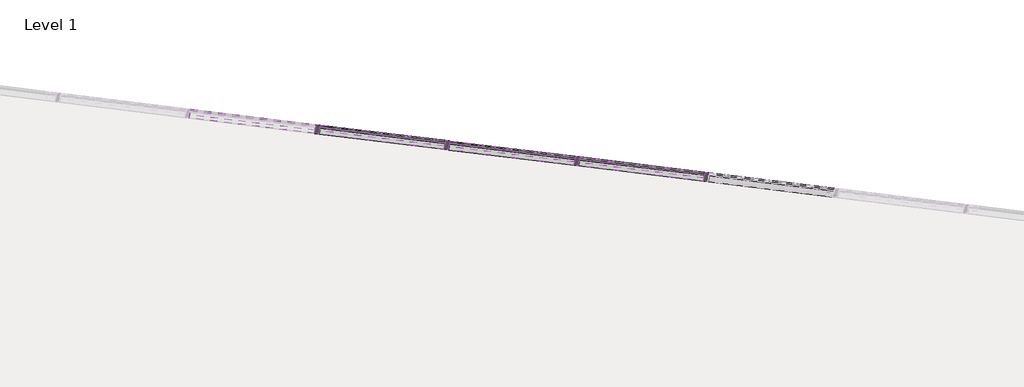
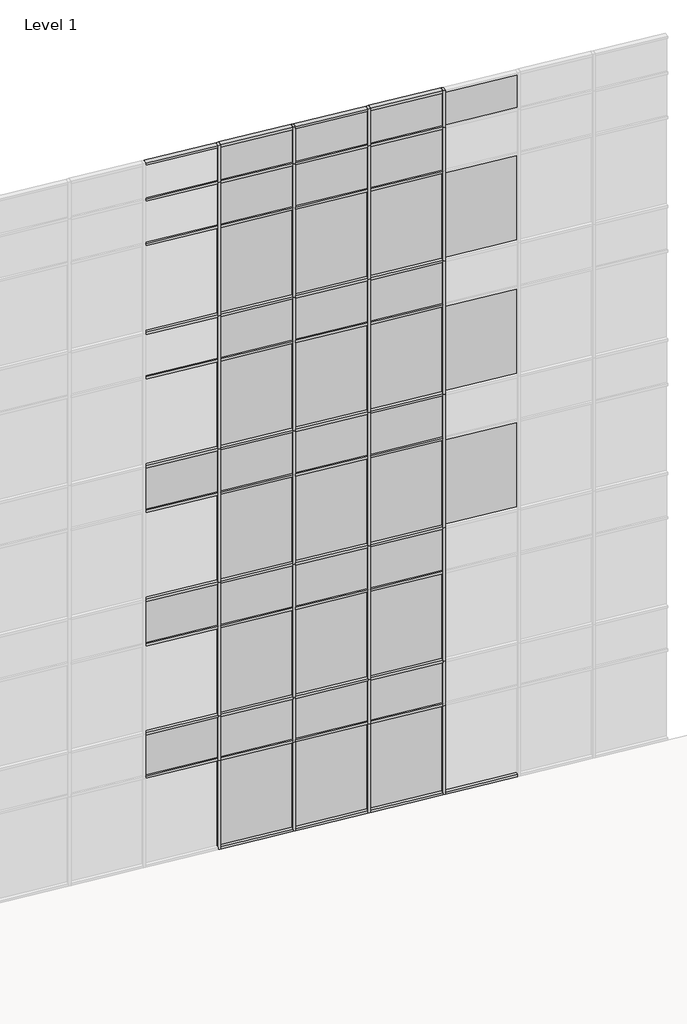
# One storey, part 17 of 23: 76 members, 40 plates.
"""IFC4 building model written with IfcOpenShell, lengths in millimetres."""

from ifc_helpers import new_model, si_unit, origin, place, context, project, spatial, transform, mapped, element, save
from components import member_2b49869a, member_f92b8aa2, member_810865a4, member_f0fea5a5, member_6d5c3e5e, member_9764dd38, system_panel_glazed_14c75400, system_panel_solid_5dfe6f83, system_panel_solid_e25e2004, system_panel_solid_b7551183

model = new_model("IFC4")

# Units and contexts
model_context = context("Model", 3, world=origin())
ifc_project = project(units=[si_unit("LENGTHUNIT", "METRE", prefix="MILLI")], contexts=[model_context])

# Site, building, storey
site = spatial("IfcSite", under=ifc_project)
building = spatial("IfcBuilding", under=site)
storey = spatial("IfcBuildingStorey", under=building, Name="Level 1", Elevation=0.0)

# Members
placement = place(None, origin())
member_shape = member_2b49869a(model_context)
element("IfcMember", 1, ObjectType="Rectangular Mullion : 2.5\" x 5\" rectangular", at=placement, inside=storey, context=model_context, shape_type="MappedRepresentation", body=[
    mapped(member_shape, transform((-20221.8467741, 14354.2917535, 2438.4), x_axis=(0.9925461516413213, -0.12186934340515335, 0.0), y_axis=(-0.12186934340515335, -0.9925461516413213, 0.0), z_axis=(0.0, 0.0, -1.0))),
])
element("IfcMember", 2, ObjectType="Rectangular Mullion : 2.5\" x 5\" rectangular", at=placement, inside=storey, context=model_context, shape_type="MappedRepresentation", body=[
    mapped(member_shape, transform((-14776.3415677, 13685.6677878, 2438.4), x_axis=(0.9925461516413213, -0.12186934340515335, 0.0), y_axis=(-0.12186934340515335, -0.9925461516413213, 0.0), z_axis=(0.0, 0.0, -1.0))),
])
element("IfcMember", 3, ObjectType="Rectangular Mullion : 2.5\" x 5\" rectangular", at=placement, inside=storey, context=model_context, shape_type="MappedRepresentation", body=[
    mapped(member_shape, transform((-16591.5099698, 13908.5424431, 2438.4), x_axis=(0.9925461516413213, -0.12186934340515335, 0.0), y_axis=(-0.12186934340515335, -0.9925461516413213, 0.0), z_axis=(0.0, 0.0, -1.0))),
])
element("IfcMember", 4, ObjectType="Rectangular Mullion : 2.5\" x 5\" rectangular", at=placement, inside=storey, context=model_context, shape_type="MappedRepresentation", body=[
    mapped(member_shape, transform((-18406.678372, 14131.4170983, 2438.4), x_axis=(0.9925461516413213, -0.12186934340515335, 0.0), y_axis=(-0.12186934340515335, -0.9925461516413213, 0.0), z_axis=(0.0, 0.0, -1.0))),
])
member_2_shape = member_f92b8aa2(model_context)
element("IfcMember", 5, ObjectType="Rectangular Mullion : 2.5\" x 5\" rectangular", at=placement, inside=storey, context=model_context, shape_type="MappedRepresentation", body=[
    mapped(member_2_shape, transform((-20221.8467741, 14354.2917535, 18288.0), x_axis=(0.9925461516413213, -0.12186934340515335, 0.0), y_axis=(-0.12186934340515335, -0.9925461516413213, 0.0), z_axis=(0.0, 0.0, -1.0))),
])
element("IfcMember", 6, ObjectType="Rectangular Mullion : 2.5\" x 5\" rectangular", at=placement, inside=storey, context=model_context, shape_type="MappedRepresentation", body=[
    mapped(member_2_shape, transform((-14776.3415677, 13685.6677878, 18288.0), x_axis=(0.9925461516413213, -0.12186934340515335, 0.0), y_axis=(-0.12186934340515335, -0.9925461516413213, 0.0), z_axis=(0.0, 0.0, -1.0))),
])
element("IfcMember", 7, ObjectType="Rectangular Mullion : 2.5\" x 5\" rectangular", at=placement, inside=storey, context=model_context, shape_type="MappedRepresentation", body=[
    mapped(member_2_shape, transform((-16591.5099698, 13908.5424431, 18288.0), x_axis=(0.9925461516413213, -0.12186934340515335, 0.0), y_axis=(-0.12186934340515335, -0.9925461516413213, 0.0), z_axis=(0.0, 0.0, -1.0))),
])
element("IfcMember", 8, ObjectType="Rectangular Mullion : 2.5\" x 5\" rectangular", at=placement, inside=storey, context=model_context, shape_type="MappedRepresentation", body=[
    mapped(member_2_shape, transform((-18406.678372, 14131.4170983, 18288.0), x_axis=(0.9925461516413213, -0.12186934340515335, 0.0), y_axis=(-0.12186934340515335, -0.9925461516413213, 0.0), z_axis=(0.0, 0.0, -1.0))),
])
member_3_shape = member_810865a4(model_context)
element("IfcMember", 9, ObjectType="Rectangular Mullion : 2.5\" x 5\" rectangular", at=placement, inside=storey, context=model_context, shape_type="MappedRepresentation", body=[
    mapped(member_3_shape, transform((-20221.8467741, 14354.2917535, 14630.4), x_axis=(0.9925461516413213, -0.12186934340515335, 0.0), y_axis=(-0.12186934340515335, -0.9925461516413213, 0.0), z_axis=(0.0, 0.0, -1.0))),
])
element("IfcMember", 10, ObjectType="Rectangular Mullion : 2.5\" x 5\" rectangular", at=placement, inside=storey, context=model_context, shape_type="MappedRepresentation", body=[
    mapped(member_3_shape, transform((-20221.8467741, 14354.2917535, 10972.8), x_axis=(0.9925461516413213, -0.12186934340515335, 0.0), y_axis=(-0.12186934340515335, -0.9925461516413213, 0.0), z_axis=(0.0, 0.0, -1.0))),
])
element("IfcMember", 11, ObjectType="Rectangular Mullion : 2.5\" x 5\" rectangular", at=placement, inside=storey, context=model_context, shape_type="MappedRepresentation", body=[
    mapped(member_3_shape, transform((-20221.8467741, 14354.2917535, 7315.2), x_axis=(0.9925461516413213, -0.12186934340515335, 0.0), y_axis=(-0.12186934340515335, -0.9925461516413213, 0.0), z_axis=(0.0, 0.0, -1.0))),
])
element("IfcMember", 12, ObjectType="Rectangular Mullion : 2.5\" x 5\" rectangular", at=placement, inside=storey, context=model_context, shape_type="MappedRepresentation", body=[
    mapped(member_3_shape, transform((-20221.8467741, 14354.2917535, 3657.6), x_axis=(0.9925461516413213, -0.12186934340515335, 0.0), y_axis=(-0.12186934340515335, -0.9925461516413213, 0.0), z_axis=(0.0, 0.0, -1.0))),
])
element("IfcMember", 13, ObjectType="Rectangular Mullion : 2.5\" x 5\" rectangular", at=placement, inside=storey, context=model_context, shape_type="MappedRepresentation", body=[
    mapped(member_3_shape, transform((-14776.3415677, 13685.6677878, 14630.4), x_axis=(0.9925461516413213, -0.12186934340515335, 0.0), y_axis=(-0.12186934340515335, -0.9925461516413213, 0.0), z_axis=(0.0, 0.0, -1.0))),
])
element("IfcMember", 14, ObjectType="Rectangular Mullion : 2.5\" x 5\" rectangular", at=placement, inside=storey, context=model_context, shape_type="MappedRepresentation", body=[
    mapped(member_3_shape, transform((-14776.3415677, 13685.6677878, 10972.8), x_axis=(0.9925461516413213, -0.12186934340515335, 0.0), y_axis=(-0.12186934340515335, -0.9925461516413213, 0.0), z_axis=(0.0, 0.0, -1.0))),
])
element("IfcMember", 15, ObjectType="Rectangular Mullion : 2.5\" x 5\" rectangular", at=placement, inside=storey, context=model_context, shape_type="MappedRepresentation", body=[
    mapped(member_3_shape, transform((-14776.3415677, 13685.6677878, 7315.2), x_axis=(0.9925461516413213, -0.12186934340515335, 0.0), y_axis=(-0.12186934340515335, -0.9925461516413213, 0.0), z_axis=(0.0, 0.0, -1.0))),
])
element("IfcMember", 16, ObjectType="Rectangular Mullion : 2.5\" x 5\" rectangular", at=placement, inside=storey, context=model_context, shape_type="MappedRepresentation", body=[
    mapped(member_3_shape, transform((-14776.3415677, 13685.6677878, 3657.6), x_axis=(0.9925461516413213, -0.12186934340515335, 0.0), y_axis=(-0.12186934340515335, -0.9925461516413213, 0.0), z_axis=(0.0, 0.0, -1.0))),
])
element("IfcMember", 17, ObjectType="Rectangular Mullion : 2.5\" x 5\" rectangular", at=placement, inside=storey, context=model_context, shape_type="MappedRepresentation", body=[
    mapped(member_3_shape, transform((-16591.5099698, 13908.5424431, 14630.4), x_axis=(0.9925461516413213, -0.12186934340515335, 0.0), y_axis=(-0.12186934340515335, -0.9925461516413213, 0.0), z_axis=(0.0, 0.0, -1.0))),
])
element("IfcMember", 18, ObjectType="Rectangular Mullion : 2.5\" x 5\" rectangular", at=placement, inside=storey, context=model_context, shape_type="MappedRepresentation", body=[
    mapped(member_3_shape, transform((-16591.5099698, 13908.5424431, 10972.8), x_axis=(0.9925461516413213, -0.12186934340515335, 0.0), y_axis=(-0.12186934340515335, -0.9925461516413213, 0.0), z_axis=(0.0, 0.0, -1.0))),
])
element("IfcMember", 19, ObjectType="Rectangular Mullion : 2.5\" x 5\" rectangular", at=placement, inside=storey, context=model_context, shape_type="MappedRepresentation", body=[
    mapped(member_3_shape, transform((-16591.5099698, 13908.5424431, 7315.2), x_axis=(0.9925461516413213, -0.12186934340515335, 0.0), y_axis=(-0.12186934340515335, -0.9925461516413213, 0.0), z_axis=(0.0, 0.0, -1.0))),
])
element("IfcMember", 20, ObjectType="Rectangular Mullion : 2.5\" x 5\" rectangular", at=placement, inside=storey, context=model_context, shape_type="MappedRepresentation", body=[
    mapped(member_3_shape, transform((-16591.5099698, 13908.5424431, 3657.6), x_axis=(0.9925461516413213, -0.12186934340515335, 0.0), y_axis=(-0.12186934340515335, -0.9925461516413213, 0.0), z_axis=(0.0, 0.0, -1.0))),
])
element("IfcMember", 21, ObjectType="Rectangular Mullion : 2.5\" x 5\" rectangular", at=placement, inside=storey, context=model_context, shape_type="MappedRepresentation", body=[
    mapped(member_3_shape, transform((-18406.678372, 14131.4170983, 14630.4), x_axis=(0.9925461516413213, -0.12186934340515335, 0.0), y_axis=(-0.12186934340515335, -0.9925461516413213, 0.0), z_axis=(0.0, 0.0, -1.0))),
])
element("IfcMember", 22, ObjectType="Rectangular Mullion : 2.5\" x 5\" rectangular", at=placement, inside=storey, context=model_context, shape_type="MappedRepresentation", body=[
    mapped(member_3_shape, transform((-18406.678372, 14131.4170983, 10972.8), x_axis=(0.9925461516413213, -0.12186934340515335, 0.0), y_axis=(-0.12186934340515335, -0.9925461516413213, 0.0), z_axis=(0.0, 0.0, -1.0))),
])
element("IfcMember", 23, ObjectType="Rectangular Mullion : 2.5\" x 5\" rectangular", at=placement, inside=storey, context=model_context, shape_type="MappedRepresentation", body=[
    mapped(member_3_shape, transform((-18406.678372, 14131.4170983, 7315.2), x_axis=(0.9925461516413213, -0.12186934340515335, 0.0), y_axis=(-0.12186934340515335, -0.9925461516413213, 0.0), z_axis=(0.0, 0.0, -1.0))),
])
element("IfcMember", 24, ObjectType="Rectangular Mullion : 2.5\" x 5\" rectangular", at=placement, inside=storey, context=model_context, shape_type="MappedRepresentation", body=[
    mapped(member_3_shape, transform((-18406.678372, 14131.4170983, 3657.6), x_axis=(0.9925461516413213, -0.12186934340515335, 0.0), y_axis=(-0.12186934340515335, -0.9925461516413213, 0.0), z_axis=(0.0, 0.0, -1.0))),
])
member_4_shape = member_f0fea5a5(model_context)
element("IfcMember", 25, ObjectType="Rectangular Mullion : 2.5\" x 5\" rectangular", at=placement, inside=storey, context=model_context, shape_type="MappedRepresentation", body=[
    mapped(member_4_shape, transform((-18406.678372, 14131.4170983, 0.0), x_axis=(0.9925461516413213, -0.12186934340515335, 0.0), y_axis=(-0.12186934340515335, -0.9925461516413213, 0.0), z_axis=(0.0, 0.0, -1.0))),
])
element("IfcMember", 26, ObjectType="Rectangular Mullion : 2.5\" x 5\" rectangular", at=placement, inside=storey, context=model_context, shape_type="MappedRepresentation", body=[
    mapped(member_4_shape, transform((-16591.5099698, 13908.5424431, 0.0), x_axis=(0.9925461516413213, -0.12186934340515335, 0.0), y_axis=(-0.12186934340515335, -0.9925461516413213, 0.0), z_axis=(0.0, 0.0, -1.0))),
])
element("IfcMember", 27, ObjectType="Rectangular Mullion : 2.5\" x 5\" rectangular", at=placement, inside=storey, context=model_context, shape_type="MappedRepresentation", body=[
    mapped(member_4_shape, transform((-14776.3415677, 13685.6677878, 0.0), x_axis=(0.9925461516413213, -0.12186934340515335, 0.0), y_axis=(-0.12186934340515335, -0.9925461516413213, 0.0), z_axis=(0.0, 0.0, -1.0))),
])
element("IfcMember", 28, ObjectType="Rectangular Mullion : 2.5\" x 5\" rectangular", at=placement, inside=storey, context=model_context, shape_type="MappedRepresentation", body=[
    mapped(member_4_shape, transform((-20221.8467741, 14354.2917535, 0.0), x_axis=(0.9925461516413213, -0.12186934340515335, 0.0), y_axis=(-0.12186934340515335, -0.9925461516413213, 0.0), z_axis=(0.0, 0.0, -1.0))),
])
member_5_shape = member_6d5c3e5e(model_context)
element("IfcMember", 29, ObjectType="Rectangular Mullion : 2.5\" x 5\" rectangular", at=placement, inside=storey, context=model_context, shape_type="MappedRepresentation", body=[
    mapped(member_5_shape, transform((-14807.854908, 13689.5371395, 19304.0), x_axis=(0.0, 0.0, 1.0), y_axis=(-0.12186934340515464, -0.9925461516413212, 0.0), z_axis=(0.9925461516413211, -0.12186934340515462, 0.0))),
])
element("IfcMember", 30, ObjectType="Rectangular Mullion : 2.5\" x 5\" rectangular", at=placement, inside=storey, context=model_context, shape_type="MappedRepresentation", body=[
    mapped(member_5_shape, transform((-16623.0233102, 13912.4117947, 19304.0), x_axis=(0.0, 0.0, 1.0), y_axis=(-0.12186934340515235, -0.9925461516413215, 0.0), z_axis=(0.9925461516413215, -0.12186934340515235, 0.0))),
])
element("IfcMember", 31, ObjectType="Rectangular Mullion : 2.5\" x 5\" rectangular", at=placement, inside=storey, context=model_context, shape_type="MappedRepresentation", body=[
    mapped(member_5_shape, transform((-18438.1917123, 14135.2864499, 19304.0), x_axis=(0.0, 0.0, 1.0), y_axis=(-0.12186934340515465, -0.9925461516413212, 0.0), z_axis=(0.9925461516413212, -0.12186934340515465, 0.0))),
])
element("IfcMember", 32, ObjectType="Rectangular Mullion : 2.5\" x 5\" rectangular", at=placement, inside=storey, context=model_context, shape_type="MappedRepresentation", body=[
    mapped(member_5_shape, transform((-20253.3601144, 14358.1611052, 19304.0), x_axis=(0.0, 0.0, 1.0), y_axis=(-0.12186934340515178, -0.9925461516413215, 0.0), z_axis=(0.9925461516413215, -0.12186934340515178, 0.0))),
])
member_6_shape = member_9764dd38(model_context)
element("IfcMember", 33, ObjectType="Rectangular Mullion : 2.5\" x 5\" rectangular", at=placement, inside=storey, context=model_context, shape_type="MappedRepresentation", body=[
    mapped(member_6_shape, transform((-14807.854908, 13689.5371395, 17068.8), x_axis=(0.0, 0.0, 1.0), y_axis=(-0.12186934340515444, -0.9925461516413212, 0.0), z_axis=(0.9925461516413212, -0.12186934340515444, 0.0))),
])
element("IfcMember", 34, ObjectType="Rectangular Mullion : 2.5\" x 5\" rectangular", at=placement, inside=storey, context=model_context, shape_type="MappedRepresentation", body=[
    mapped(member_6_shape, transform((-16623.0233102, 13912.4117947, 17068.8), x_axis=(0.0, 0.0, 1.0), y_axis=(-0.12186934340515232, -0.9925461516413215, 0.0), z_axis=(0.9925461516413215, -0.12186934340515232, 0.0))),
])
element("IfcMember", 35, ObjectType="Rectangular Mullion : 2.5\" x 5\" rectangular", at=placement, inside=storey, context=model_context, shape_type="MappedRepresentation", body=[
    mapped(member_6_shape, transform((-18438.1917123, 14135.2864499, 17068.8), x_axis=(0.0, 0.0, 1.0), y_axis=(-0.12186934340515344, -0.9925461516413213, 0.0), z_axis=(0.9925461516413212, -0.12186934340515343, 0.0))),
])
element("IfcMember", 36, ObjectType="Rectangular Mullion : 2.5\" x 5\" rectangular", at=placement, inside=storey, context=model_context, shape_type="MappedRepresentation", body=[
    mapped(member_6_shape, transform((-20253.3601144, 14358.1611052, 17068.8), x_axis=(0.0, 0.0, 1.0), y_axis=(-0.12186934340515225, -0.9925461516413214, 0.0), z_axis=(0.9925461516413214, -0.12186934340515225, 0.0))),
])
element("IfcMember", 37, ObjectType="Rectangular Mullion : 2.5\" x 5\" rectangular", at=placement, inside=storey, context=model_context, shape_type="MappedRepresentation", body=[
    mapped(member_6_shape, transform((-14807.854908, 13689.5371395, 13411.2), x_axis=(0.0, 0.0, 1.0), y_axis=(-0.12186934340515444, -0.9925461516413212, 0.0), z_axis=(0.9925461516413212, -0.12186934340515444, 0.0))),
])
element("IfcMember", 38, ObjectType="Rectangular Mullion : 2.5\" x 5\" rectangular", at=placement, inside=storey, context=model_context, shape_type="MappedRepresentation", body=[
    mapped(member_6_shape, transform((-16623.0233102, 13912.4117947, 13411.2), x_axis=(0.0, 0.0, 1.0), y_axis=(-0.12186934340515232, -0.9925461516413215, 0.0), z_axis=(0.9925461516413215, -0.12186934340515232, 0.0))),
])
element("IfcMember", 39, ObjectType="Rectangular Mullion : 2.5\" x 5\" rectangular", at=placement, inside=storey, context=model_context, shape_type="MappedRepresentation", body=[
    mapped(member_6_shape, transform((-18438.1917123, 14135.2864499, 13411.2), x_axis=(0.0, 0.0, 1.0), y_axis=(-0.12186934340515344, -0.9925461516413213, 0.0), z_axis=(0.9925461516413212, -0.12186934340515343, 0.0))),
])
element("IfcMember", 40, ObjectType="Rectangular Mullion : 2.5\" x 5\" rectangular", at=placement, inside=storey, context=model_context, shape_type="MappedRepresentation", body=[
    mapped(member_6_shape, transform((-20253.3601144, 14358.1611052, 13411.2), x_axis=(0.0, 0.0, 1.0), y_axis=(-0.12186934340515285, -0.9925461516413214, 0.0), z_axis=(0.9925461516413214, -0.12186934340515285, 0.0))),
])
element("IfcMember", 41, ObjectType="Rectangular Mullion : 2.5\" x 5\" rectangular", at=placement, inside=storey, context=model_context, shape_type="MappedRepresentation", body=[
    mapped(member_6_shape, transform((-14807.854908, 13689.5371395, 9753.6), x_axis=(0.0, 0.0, 1.0), y_axis=(-0.12186934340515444, -0.9925461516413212, 0.0), z_axis=(0.9925461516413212, -0.12186934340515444, 0.0))),
])
element("IfcMember", 42, ObjectType="Rectangular Mullion : 2.5\" x 5\" rectangular", at=placement, inside=storey, context=model_context, shape_type="MappedRepresentation", body=[
    mapped(member_6_shape, transform((-16623.0233102, 13912.4117947, 9753.6), x_axis=(0.0, 0.0, 1.0), y_axis=(-0.12186934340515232, -0.9925461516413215, 0.0), z_axis=(0.9925461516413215, -0.12186934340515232, 0.0))),
])
element("IfcMember", 43, ObjectType="Rectangular Mullion : 2.5\" x 5\" rectangular", at=placement, inside=storey, context=model_context, shape_type="MappedRepresentation", body=[
    mapped(member_6_shape, transform((-18438.1917123, 14135.2864499, 9753.6), x_axis=(0.0, 0.0, 1.0), y_axis=(-0.12186934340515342, -0.9925461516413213, 0.0), z_axis=(0.9925461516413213, -0.12186934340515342, 0.0))),
])
element("IfcMember", 44, ObjectType="Rectangular Mullion : 2.5\" x 5\" rectangular", at=placement, inside=storey, context=model_context, shape_type="MappedRepresentation", body=[
    mapped(member_6_shape, transform((-20253.3601144, 14358.1611052, 9753.6), x_axis=(0.0, 0.0, 1.0), y_axis=(-0.12186934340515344, -0.9925461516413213, 0.0), z_axis=(0.9925461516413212, -0.12186934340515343, 0.0))),
])
element("IfcMember", 45, ObjectType="Rectangular Mullion : 2.5\" x 5\" rectangular", at=placement, inside=storey, context=model_context, shape_type="MappedRepresentation", body=[
    mapped(member_6_shape, transform((-14807.854908, 13689.5371395, 6096.0), x_axis=(0.0, 0.0, 1.0), y_axis=(-0.12186934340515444, -0.9925461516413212, 0.0), z_axis=(0.9925461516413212, -0.12186934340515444, 0.0))),
])
element("IfcMember", 46, ObjectType="Rectangular Mullion : 2.5\" x 5\" rectangular", at=placement, inside=storey, context=model_context, shape_type="MappedRepresentation", body=[
    mapped(member_6_shape, transform((-16623.0233102, 13912.4117947, 6096.0), x_axis=(0.0, 0.0, 1.0), y_axis=(-0.12186934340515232, -0.9925461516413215, 0.0), z_axis=(0.9925461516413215, -0.12186934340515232, 0.0))),
])
element("IfcMember", 47, ObjectType="Rectangular Mullion : 2.5\" x 5\" rectangular", at=placement, inside=storey, context=model_context, shape_type="MappedRepresentation", body=[
    mapped(member_6_shape, transform((-18438.1917123, 14135.2864499, 6096.0), x_axis=(0.0, 0.0, 1.0), y_axis=(-0.12186934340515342, -0.9925461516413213, 0.0), z_axis=(0.9925461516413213, -0.12186934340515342, 0.0))),
])
element("IfcMember", 48, ObjectType="Rectangular Mullion : 2.5\" x 5\" rectangular", at=placement, inside=storey, context=model_context, shape_type="MappedRepresentation", body=[
    mapped(member_6_shape, transform((-20253.3601144, 14358.1611052, 6096.0), x_axis=(0.0, 0.0, 1.0), y_axis=(-0.12186934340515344, -0.9925461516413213, 0.0), z_axis=(0.9925461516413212, -0.12186934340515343, 0.0))),
])
element("IfcMember", 49, ObjectType="Rectangular Mullion : 2.5\" x 5\" rectangular", at=placement, inside=storey, context=model_context, shape_type="MappedRepresentation", body=[
    mapped(member_6_shape, transform((-14807.854908, 13689.5371395, 2470.15), x_axis=(0.0, 0.0, 1.0), y_axis=(-0.12186934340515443, -0.9925461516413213, 0.0), z_axis=(0.9925461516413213, -0.12186934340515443, 0.0))),
])
element("IfcMember", 50, ObjectType="Rectangular Mullion : 2.5\" x 5\" rectangular", at=placement, inside=storey, context=model_context, shape_type="MappedRepresentation", body=[
    mapped(member_6_shape, transform((-16623.0233102, 13912.4117947, 2470.15), x_axis=(0.0, 0.0, 1.0), y_axis=(-0.12186934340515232, -0.9925461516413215, 0.0), z_axis=(0.9925461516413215, -0.12186934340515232, 0.0))),
])
element("IfcMember", 51, ObjectType="Rectangular Mullion : 2.5\" x 5\" rectangular", at=placement, inside=storey, context=model_context, shape_type="MappedRepresentation", body=[
    mapped(member_6_shape, transform((-18438.1917123, 14135.2864499, 2470.15), x_axis=(0.0, 0.0, 1.0), y_axis=(-0.1218693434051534, -0.9925461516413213, 0.0), z_axis=(0.9925461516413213, -0.1218693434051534, 0.0))),
])
element("IfcMember", 52, ObjectType="Rectangular Mullion : 2.5\" x 5\" rectangular", at=placement, inside=storey, context=model_context, shape_type="MappedRepresentation", body=[
    mapped(member_6_shape, transform((-20253.3601144, 14358.1611052, 2470.15), x_axis=(0.0, 0.0, 1.0), y_axis=(-0.12186934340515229, -0.9925461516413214, 0.0), z_axis=(0.9925461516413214, -0.12186934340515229, 0.0))),
])
element("IfcMember", 53, ObjectType="Rectangular Mullion : 2.5\" x 5\" rectangular", at=placement, inside=storey, context=model_context, shape_type="MappedRepresentation", body=[
    mapped(member_5_shape, transform((-14744.8282274, 13681.7984362, 0.0), x_axis=(0.0, 0.0, -1.0), y_axis=(-0.12186934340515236, -0.9925461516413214, 0.0), z_axis=(-0.9925461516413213, 0.12186934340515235, 0.0))),
])
element("IfcMember", 54, ObjectType="Rectangular Mullion : 2.5\" x 5\" rectangular", at=placement, inside=storey, context=model_context, shape_type="MappedRepresentation", body=[
    mapped(member_5_shape, transform((-16559.9966295, 13904.6730914, 0.0), x_axis=(0.0, 0.0, -1.0), y_axis=(-0.12186934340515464, -0.9925461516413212, 0.0), z_axis=(-0.9925461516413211, 0.12186934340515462, 0.0))),
])
element("IfcMember", 55, ObjectType="Rectangular Mullion : 2.5\" x 5\" rectangular", at=placement, inside=storey, context=model_context, shape_type="MappedRepresentation", body=[
    mapped(member_5_shape, transform((-18375.1650316, 14127.5477466, 0.0), x_axis=(0.0, 0.0, -1.0), y_axis=(-0.12186934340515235, -0.9925461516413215, 0.0), z_axis=(-0.9925461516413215, 0.12186934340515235, 0.0))),
])
element("IfcMember", 56, ObjectType="Rectangular Mullion : 2.5\" x 5\" rectangular", at=placement, inside=storey, context=model_context, shape_type="MappedRepresentation", body=[
    mapped(member_5_shape, transform((-20190.3334338, 14350.4224018, 0.0), x_axis=(0.0, 0.0, -1.0), y_axis=(-0.12186934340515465, -0.9925461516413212, 0.0), z_axis=(-0.9925461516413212, 0.12186934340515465, 0.0))),
])
element("IfcMember", 57, ObjectType="Rectangular Mullion : 2.5\" x 5\" rectangular", at=placement, inside=storey, context=model_context, shape_type="MappedRepresentation", body=[
    mapped(member_6_shape, transform((-14807.854908, 13689.5371395, 3657.6), x_axis=(0.0, 0.0, 1.0), y_axis=(-0.12186934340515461, -0.9925461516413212, 0.0), z_axis=(0.9925461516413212, -0.12186934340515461, 0.0))),
])
element("IfcMember", 58, ObjectType="Rectangular Mullion : 2.5\" x 5\" rectangular", at=placement, inside=storey, context=model_context, shape_type="MappedRepresentation", body=[
    mapped(member_6_shape, transform((-16623.0233102, 13912.4117947, 3657.6), x_axis=(0.0, 0.0, 1.0), y_axis=(-0.12186934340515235, -0.9925461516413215, 0.0), z_axis=(0.9925461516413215, -0.12186934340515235, 0.0))),
])
element("IfcMember", 59, ObjectType="Rectangular Mullion : 2.5\" x 5\" rectangular", at=placement, inside=storey, context=model_context, shape_type="MappedRepresentation", body=[
    mapped(member_6_shape, transform((-18438.1917123, 14135.2864499, 3657.6), x_axis=(0.0, 0.0, 1.0), y_axis=(-0.12186934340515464, -0.9925461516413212, 0.0), z_axis=(0.9925461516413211, -0.12186934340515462, 0.0))),
])
element("IfcMember", 60, ObjectType="Rectangular Mullion : 2.5\" x 5\" rectangular", at=placement, inside=storey, context=model_context, shape_type="MappedRepresentation", body=[
    mapped(member_6_shape, transform((-20253.3601144, 14358.1611052, 3657.6), x_axis=(0.0, 0.0, 1.0), y_axis=(-0.12186934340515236, -0.9925461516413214, 0.0), z_axis=(0.9925461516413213, -0.12186934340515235, 0.0))),
])
element("IfcMember", 61, ObjectType="Rectangular Mullion : 2.5\" x 5\" rectangular", at=placement, inside=storey, context=model_context, shape_type="MappedRepresentation", body=[
    mapped(member_6_shape, transform((-14807.854908, 13689.5371395, 10972.8), x_axis=(0.0, 0.0, 1.0), y_axis=(-0.12186934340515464, -0.9925461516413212, 0.0), z_axis=(0.9925461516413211, -0.12186934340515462, 0.0))),
])
element("IfcMember", 62, ObjectType="Rectangular Mullion : 2.5\" x 5\" rectangular", at=placement, inside=storey, context=model_context, shape_type="MappedRepresentation", body=[
    mapped(member_6_shape, transform((-16623.0233102, 13912.4117947, 10972.8), x_axis=(0.0, 0.0, 1.0), y_axis=(-0.12186934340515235, -0.9925461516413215, 0.0), z_axis=(0.9925461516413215, -0.12186934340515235, 0.0))),
])
element("IfcMember", 63, ObjectType="Rectangular Mullion : 2.5\" x 5\" rectangular", at=placement, inside=storey, context=model_context, shape_type="MappedRepresentation", body=[
    mapped(member_6_shape, transform((-18438.1917123, 14135.2864499, 10972.8), x_axis=(0.0, 0.0, 1.0), y_axis=(-0.12186934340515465, -0.9925461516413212, 0.0), z_axis=(0.9925461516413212, -0.12186934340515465, 0.0))),
])
element("IfcMember", 64, ObjectType="Rectangular Mullion : 2.5\" x 5\" rectangular", at=placement, inside=storey, context=model_context, shape_type="MappedRepresentation", body=[
    mapped(member_6_shape, transform((-20253.3601144, 14358.1611052, 10972.8), x_axis=(0.0, 0.0, 1.0), y_axis=(-0.12186934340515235, -0.9925461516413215, 0.0), z_axis=(0.9925461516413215, -0.12186934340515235, 0.0))),
])
element("IfcMember", 65, ObjectType="Rectangular Mullion : 2.5\" x 5\" rectangular", at=placement, inside=storey, context=model_context, shape_type="MappedRepresentation", body=[
    mapped(member_6_shape, transform((-14807.854908, 13689.5371395, 14630.4), x_axis=(0.0, 0.0, 1.0), y_axis=(-0.12186934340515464, -0.9925461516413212, 0.0), z_axis=(0.9925461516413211, -0.12186934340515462, 0.0))),
])
element("IfcMember", 66, ObjectType="Rectangular Mullion : 2.5\" x 5\" rectangular", at=placement, inside=storey, context=model_context, shape_type="MappedRepresentation", body=[
    mapped(member_6_shape, transform((-16623.0233102, 13912.4117947, 14630.4), x_axis=(0.0, 0.0, 1.0), y_axis=(-0.12186934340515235, -0.9925461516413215, 0.0), z_axis=(0.9925461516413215, -0.12186934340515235, 0.0))),
])
element("IfcMember", 67, ObjectType="Rectangular Mullion : 2.5\" x 5\" rectangular", at=placement, inside=storey, context=model_context, shape_type="MappedRepresentation", body=[
    mapped(member_6_shape, transform((-18438.1917123, 14135.2864499, 14630.4), x_axis=(0.0, 0.0, 1.0), y_axis=(-0.12186934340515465, -0.9925461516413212, 0.0), z_axis=(0.9925461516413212, -0.12186934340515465, 0.0))),
])
element("IfcMember", 68, ObjectType="Rectangular Mullion : 2.5\" x 5\" rectangular", at=placement, inside=storey, context=model_context, shape_type="MappedRepresentation", body=[
    mapped(member_6_shape, transform((-14807.854908, 13689.5371395, 7315.2), x_axis=(0.0, 0.0, 1.0), y_axis=(-0.12186934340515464, -0.9925461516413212, 0.0), z_axis=(0.9925461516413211, -0.12186934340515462, 0.0))),
])
element("IfcMember", 69, ObjectType="Rectangular Mullion : 2.5\" x 5\" rectangular", at=placement, inside=storey, context=model_context, shape_type="MappedRepresentation", body=[
    mapped(member_6_shape, transform((-16623.0233102, 13912.4117947, 7315.2), x_axis=(0.0, 0.0, 1.0), y_axis=(-0.12186934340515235, -0.9925461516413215, 0.0), z_axis=(0.9925461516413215, -0.12186934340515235, 0.0))),
])
element("IfcMember", 70, ObjectType="Rectangular Mullion : 2.5\" x 5\" rectangular", at=placement, inside=storey, context=model_context, shape_type="MappedRepresentation", body=[
    mapped(member_6_shape, transform((-18438.1917123, 14135.2864499, 7315.2), x_axis=(0.0, 0.0, 1.0), y_axis=(-0.12186934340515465, -0.9925461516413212, 0.0), z_axis=(0.9925461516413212, -0.12186934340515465, 0.0))),
])
element("IfcMember", 71, ObjectType="Rectangular Mullion : 2.5\" x 5\" rectangular", at=placement, inside=storey, context=model_context, shape_type="MappedRepresentation", body=[
    mapped(member_6_shape, transform((-20253.3601144, 14358.1611052, 7315.2), x_axis=(0.0, 0.0, 1.0), y_axis=(-0.12186934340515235, -0.9925461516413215, 0.0), z_axis=(0.9925461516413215, -0.12186934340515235, 0.0))),
])
element("IfcMember", 72, ObjectType="Rectangular Mullion : 2.5\" x 5\" rectangular", at=placement, inside=storey, context=model_context, shape_type="MappedRepresentation", body=[
    mapped(member_6_shape, transform((-14807.854908, 13689.5371395, 18288.0), x_axis=(0.0, 0.0, 1.0), y_axis=(-0.12186934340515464, -0.9925461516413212, 0.0), z_axis=(0.9925461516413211, -0.12186934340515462, 0.0))),
])
element("IfcMember", 73, ObjectType="Rectangular Mullion : 2.5\" x 5\" rectangular", at=placement, inside=storey, context=model_context, shape_type="MappedRepresentation", body=[
    mapped(member_6_shape, transform((-16623.0233102, 13912.4117947, 18288.0), x_axis=(0.0, 0.0, 1.0), y_axis=(-0.12186934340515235, -0.9925461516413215, 0.0), z_axis=(0.9925461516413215, -0.12186934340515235, 0.0))),
])
element("IfcMember", 74, ObjectType="Rectangular Mullion : 2.5\" x 5\" rectangular", at=placement, inside=storey, context=model_context, shape_type="MappedRepresentation", body=[
    mapped(member_6_shape, transform((-18438.1917123, 14135.2864499, 18288.0), x_axis=(0.0, 0.0, 1.0), y_axis=(-0.12186934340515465, -0.9925461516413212, 0.0), z_axis=(0.9925461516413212, -0.12186934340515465, 0.0))),
])
element("IfcMember", 75, ObjectType="Rectangular Mullion : 2.5\" x 5\" rectangular", at=placement, inside=storey, context=model_context, shape_type="MappedRepresentation", body=[
    mapped(member_6_shape, transform((-20253.3601144, 14358.1611052, 18288.0), x_axis=(0.0, 0.0, 1.0), y_axis=(-0.12186934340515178, -0.9925461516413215, 0.0), z_axis=(0.9925461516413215, -0.12186934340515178, 0.0))),
])
element("IfcMember", 76, ObjectType="Rectangular Mullion : 2.5\" x 5\" rectangular", at=placement, inside=storey, context=model_context, shape_type="MappedRepresentation", body=[
    mapped(member_6_shape, transform((-20253.3601144, 14358.1611052, 14630.4), x_axis=(0.0, 0.0, 1.0), y_axis=(-0.12186934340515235, -0.9925461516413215, 0.0), z_axis=(0.9925461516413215, -0.12186934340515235, 0.0))),
])

# Plates
system_panel_glazed_shape = system_panel_glazed_14c75400(model_context)
element("IfcPlate", 77, ObjectType="System Panel : Glazed", at=placement, inside=storey, context=model_context, shape_type="MappedRepresentation", body=[
    mapped(system_panel_glazed_shape, transform((-13868.7573667, 13574.2304602, 14662.15), x_axis=(0.9925461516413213, -0.12186934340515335, 0.0), y_axis=(0.12186934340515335, 0.9925461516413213, 0.0), z_axis=(0.0, 0.0, 1.0))),
])
element("IfcPlate", 78, ObjectType="System Panel : Glazed", at=placement, inside=storey, context=model_context, shape_type="MappedRepresentation", body=[
    mapped(system_panel_glazed_shape, transform((-15683.9257688, 13797.1051154, 14662.15), x_axis=(0.9925461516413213, -0.12186934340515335, 0.0), y_axis=(0.12186934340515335, 0.9925461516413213, 0.0), z_axis=(0.0, 0.0, 1.0))),
])
element("IfcPlate", 79, ObjectType="System Panel : Glazed", at=placement, inside=storey, context=model_context, shape_type="MappedRepresentation", body=[
    mapped(system_panel_glazed_shape, transform((-17499.0941709, 14019.9797707, 14662.15), x_axis=(0.9925461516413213, -0.12186934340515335, 0.0), y_axis=(0.12186934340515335, 0.9925461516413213, 0.0), z_axis=(0.0, 0.0, 1.0))),
])
element("IfcPlate", 80, ObjectType="System Panel : Glazed", at=placement, inside=storey, context=model_context, shape_type="MappedRepresentation", body=[
    mapped(system_panel_glazed_shape, transform((-19314.262573, 14242.8544259, 14662.15), x_axis=(0.9925461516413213, -0.12186934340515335, 0.0), y_axis=(0.12186934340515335, 0.9925461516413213, 0.0), z_axis=(0.0, 0.0, 1.0))),
])
element("IfcPlate", 81, ObjectType="System Panel : Glazed", at=placement, inside=storey, context=model_context, shape_type="MappedRepresentation", body=[
    mapped(system_panel_glazed_shape, transform((-13868.7573667, 13574.2304602, 11004.55), x_axis=(0.9925461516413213, -0.12186934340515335, 0.0), y_axis=(0.12186934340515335, 0.9925461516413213, 0.0), z_axis=(0.0, 0.0, 1.0))),
])
element("IfcPlate", 82, ObjectType="System Panel : Glazed", at=placement, inside=storey, context=model_context, shape_type="MappedRepresentation", body=[
    mapped(system_panel_glazed_shape, transform((-15683.9257688, 13797.1051154, 11004.55), x_axis=(0.9925461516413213, -0.12186934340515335, 0.0), y_axis=(0.12186934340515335, 0.9925461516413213, 0.0), z_axis=(0.0, 0.0, 1.0))),
])
element("IfcPlate", 83, ObjectType="System Panel : Glazed", at=placement, inside=storey, context=model_context, shape_type="MappedRepresentation", body=[
    mapped(system_panel_glazed_shape, transform((-17499.0941709, 14019.9797707, 11004.55), x_axis=(0.9925461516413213, -0.12186934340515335, 0.0), y_axis=(0.12186934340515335, 0.9925461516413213, 0.0), z_axis=(0.0, 0.0, 1.0))),
])
element("IfcPlate", 84, ObjectType="System Panel : Glazed", at=placement, inside=storey, context=model_context, shape_type="MappedRepresentation", body=[
    mapped(system_panel_glazed_shape, transform((-19314.262573, 14242.8544259, 11004.55), x_axis=(0.9925461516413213, -0.12186934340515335, 0.0), y_axis=(0.12186934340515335, 0.9925461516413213, 0.0), z_axis=(0.0, 0.0, 1.0))),
])
element("IfcPlate", 85, ObjectType="System Panel : Glazed", at=placement, inside=storey, context=model_context, shape_type="MappedRepresentation", body=[
    mapped(system_panel_glazed_shape, transform((-13868.7573667, 13574.2304602, 7346.95), x_axis=(0.9925461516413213, -0.12186934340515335, 0.0), y_axis=(0.12186934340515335, 0.9925461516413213, 0.0), z_axis=(0.0, 0.0, 1.0))),
])
element("IfcPlate", 86, ObjectType="System Panel : Glazed", at=placement, inside=storey, context=model_context, shape_type="MappedRepresentation", body=[
    mapped(system_panel_glazed_shape, transform((-15683.9257688, 13797.1051154, 7346.95), x_axis=(0.9925461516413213, -0.12186934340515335, 0.0), y_axis=(0.12186934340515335, 0.9925461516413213, 0.0), z_axis=(0.0, 0.0, 1.0))),
])
element("IfcPlate", 87, ObjectType="System Panel : Glazed", at=placement, inside=storey, context=model_context, shape_type="MappedRepresentation", body=[
    mapped(system_panel_glazed_shape, transform((-17499.0941709, 14019.9797707, 7346.95), x_axis=(0.9925461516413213, -0.12186934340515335, 0.0), y_axis=(0.12186934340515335, 0.9925461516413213, 0.0), z_axis=(0.0, 0.0, 1.0))),
])
element("IfcPlate", 88, ObjectType="System Panel : Glazed", at=placement, inside=storey, context=model_context, shape_type="MappedRepresentation", body=[
    mapped(system_panel_glazed_shape, transform((-19314.262573, 14242.8544259, 7346.95), x_axis=(0.9925461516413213, -0.12186934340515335, 0.0), y_axis=(0.12186934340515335, 0.9925461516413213, 0.0), z_axis=(0.0, 0.0, 1.0))),
])
element("IfcPlate", 89, ObjectType="System Panel : Glazed", at=placement, inside=storey, context=model_context, shape_type="MappedRepresentation", body=[
    mapped(system_panel_glazed_shape, transform((-15683.9257688, 13797.1051154, 3689.35), x_axis=(0.9925461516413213, -0.12186934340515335, 0.0), y_axis=(0.12186934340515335, 0.9925461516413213, 0.0), z_axis=(0.0, 0.0, 1.0))),
])
element("IfcPlate", 90, ObjectType="System Panel : Glazed", at=placement, inside=storey, context=model_context, shape_type="MappedRepresentation", body=[
    mapped(system_panel_glazed_shape, transform((-17499.0941709, 14019.9797707, 3689.35), x_axis=(0.9925461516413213, -0.12186934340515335, 0.0), y_axis=(0.12186934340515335, 0.9925461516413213, 0.0), z_axis=(0.0, 0.0, 1.0))),
])
element("IfcPlate", 91, ObjectType="System Panel : Glazed", at=placement, inside=storey, context=model_context, shape_type="MappedRepresentation", body=[
    mapped(system_panel_glazed_shape, transform((-19314.262573, 14242.8544259, 3689.35), x_axis=(0.9925461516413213, -0.12186934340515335, 0.0), y_axis=(0.12186934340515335, 0.9925461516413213, 0.0), z_axis=(0.0, 0.0, 1.0))),
])
element("IfcPlate", 92, ObjectType="System Panel : Glazed", at=placement, inside=storey, context=model_context, shape_type="MappedRepresentation", body=[
    mapped(system_panel_glazed_shape, transform((-15683.9257688, 13797.1051154, 63.5), x_axis=(0.9925461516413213, -0.12186934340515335, 0.0), y_axis=(0.12186934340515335, 0.9925461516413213, 0.0), z_axis=(0.0, 0.0, 1.0))),
])
element("IfcPlate", 93, ObjectType="System Panel : Glazed", at=placement, inside=storey, context=model_context, shape_type="MappedRepresentation", body=[
    mapped(system_panel_glazed_shape, transform((-17499.0941709, 14019.9797707, 63.5), x_axis=(0.9925461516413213, -0.12186934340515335, 0.0), y_axis=(0.12186934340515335, 0.9925461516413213, 0.0), z_axis=(0.0, 0.0, 1.0))),
])
element("IfcPlate", 94, ObjectType="System Panel : Glazed", at=placement, inside=storey, context=model_context, shape_type="MappedRepresentation", body=[
    mapped(system_panel_glazed_shape, transform((-19314.262573, 14242.8544259, 63.5), x_axis=(0.9925461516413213, -0.12186934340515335, 0.0), y_axis=(0.12186934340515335, 0.9925461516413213, 0.0), z_axis=(0.0, 0.0, 1.0))),
])
system_panel_solid_shape = system_panel_solid_5dfe6f83(model_context)
element("IfcPlate", 95, ObjectType="System Panel : Solid", at=placement, inside=storey, context=model_context, shape_type="MappedRepresentation", body=[
    mapped(system_panel_solid_shape, transform((-19314.262573, 14242.8544259, 18319.75), x_axis=(0.9925461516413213, -0.12186934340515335, 0.0), y_axis=(0.12186934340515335, 0.9925461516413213, 0.0), z_axis=(0.0, 0.0, 1.0))),
])
element("IfcPlate", 96, ObjectType="System Panel : Solid", at=placement, inside=storey, context=model_context, shape_type="MappedRepresentation", body=[
    mapped(system_panel_solid_shape, transform((-17499.0941709, 14019.9797707, 18319.75), x_axis=(0.9925461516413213, -0.12186934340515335, 0.0), y_axis=(0.12186934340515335, 0.9925461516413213, 0.0), z_axis=(0.0, 0.0, 1.0))),
])
element("IfcPlate", 97, ObjectType="System Panel : Solid", at=placement, inside=storey, context=model_context, shape_type="MappedRepresentation", body=[
    mapped(system_panel_solid_shape, transform((-15683.9257688, 13797.1051154, 18319.75), x_axis=(0.9925461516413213, -0.12186934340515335, 0.0), y_axis=(0.12186934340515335, 0.9925461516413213, 0.0), z_axis=(0.0, 0.0, 1.0))),
])
element("IfcPlate", 98, ObjectType="System Panel : Solid", at=placement, inside=storey, context=model_context, shape_type="MappedRepresentation", body=[
    mapped(system_panel_solid_shape, transform((-13868.7573667, 13574.2304602, 18319.75), x_axis=(0.9925461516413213, -0.12186934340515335, 0.0), y_axis=(0.12186934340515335, 0.9925461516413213, 0.0), z_axis=(0.0, 0.0, 1.0))),
])
system_panel_solid_2_shape = system_panel_solid_e25e2004(model_context)
element("IfcPlate", 99, ObjectType="System Panel : Solid", at=placement, inside=storey, context=model_context, shape_type="MappedRepresentation", body=[
    mapped(system_panel_solid_2_shape, transform((-15683.9257688, 13797.1051154, 17100.55), x_axis=(0.9925461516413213, -0.12186934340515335, 0.0), y_axis=(0.12186934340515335, 0.9925461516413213, 0.0), z_axis=(0.0, 0.0, 1.0))),
])
element("IfcPlate", 100, ObjectType="System Panel : Solid", at=placement, inside=storey, context=model_context, shape_type="MappedRepresentation", body=[
    mapped(system_panel_solid_2_shape, transform((-17499.0941709, 14019.9797707, 17100.55), x_axis=(0.9925461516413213, -0.12186934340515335, 0.0), y_axis=(0.12186934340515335, 0.9925461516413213, 0.0), z_axis=(0.0, 0.0, 1.0))),
])
element("IfcPlate", 101, ObjectType="System Panel : Solid", at=placement, inside=storey, context=model_context, shape_type="MappedRepresentation", body=[
    mapped(system_panel_solid_2_shape, transform((-19314.262573, 14242.8544259, 17100.55), x_axis=(0.9925461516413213, -0.12186934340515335, 0.0), y_axis=(0.12186934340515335, 0.9925461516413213, 0.0), z_axis=(0.0, 0.0, 1.0))),
])
element("IfcPlate", 102, ObjectType="System Panel : Solid", at=placement, inside=storey, context=model_context, shape_type="MappedRepresentation", body=[
    mapped(system_panel_solid_2_shape, transform((-15683.9257688, 13797.1051154, 13442.95), x_axis=(0.9925461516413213, -0.12186934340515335, 0.0), y_axis=(0.12186934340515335, 0.9925461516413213, 0.0), z_axis=(0.0, 0.0, 1.0))),
])
element("IfcPlate", 103, ObjectType="System Panel : Solid", at=placement, inside=storey, context=model_context, shape_type="MappedRepresentation", body=[
    mapped(system_panel_solid_2_shape, transform((-17499.0941709, 14019.9797707, 13442.95), x_axis=(0.9925461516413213, -0.12186934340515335, 0.0), y_axis=(0.12186934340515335, 0.9925461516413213, 0.0), z_axis=(0.0, 0.0, 1.0))),
])
element("IfcPlate", 104, ObjectType="System Panel : Solid", at=placement, inside=storey, context=model_context, shape_type="MappedRepresentation", body=[
    mapped(system_panel_solid_2_shape, transform((-19314.262573, 14242.8544259, 13442.95), x_axis=(0.9925461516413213, -0.12186934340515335, 0.0), y_axis=(0.12186934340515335, 0.9925461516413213, 0.0), z_axis=(0.0, 0.0, 1.0))),
])
element("IfcPlate", 105, ObjectType="System Panel : Solid", at=placement, inside=storey, context=model_context, shape_type="MappedRepresentation", body=[
    mapped(system_panel_solid_2_shape, transform((-15683.9257688, 13797.1051154, 9785.35), x_axis=(0.9925461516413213, -0.12186934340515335, 0.0), y_axis=(0.12186934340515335, 0.9925461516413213, 0.0), z_axis=(0.0, 0.0, 1.0))),
])
element("IfcPlate", 106, ObjectType="System Panel : Solid", at=placement, inside=storey, context=model_context, shape_type="MappedRepresentation", body=[
    mapped(system_panel_solid_2_shape, transform((-17499.0941709, 14019.9797707, 9785.35), x_axis=(0.9925461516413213, -0.12186934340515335, 0.0), y_axis=(0.12186934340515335, 0.9925461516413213, 0.0), z_axis=(0.0, 0.0, 1.0))),
])
element("IfcPlate", 107, ObjectType="System Panel : Solid", at=placement, inside=storey, context=model_context, shape_type="MappedRepresentation", body=[
    mapped(system_panel_solid_2_shape, transform((-19314.262573, 14242.8544259, 9785.35), x_axis=(0.9925461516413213, -0.12186934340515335, 0.0), y_axis=(0.12186934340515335, 0.9925461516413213, 0.0), z_axis=(0.0, 0.0, 1.0))),
])
element("IfcPlate", 108, ObjectType="System Panel : Solid", at=placement, inside=storey, context=model_context, shape_type="MappedRepresentation", body=[
    mapped(system_panel_solid_2_shape, transform((-21129.4309751, 14465.7290811, 9785.35), x_axis=(0.9925461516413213, -0.12186934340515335, 0.0), y_axis=(0.12186934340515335, 0.9925461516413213, 0.0), z_axis=(0.0, 0.0, 1.0))),
])
element("IfcPlate", 109, ObjectType="System Panel : Solid", at=placement, inside=storey, context=model_context, shape_type="MappedRepresentation", body=[
    mapped(system_panel_solid_2_shape, transform((-15683.9257688, 13797.1051154, 6127.75), x_axis=(0.9925461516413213, -0.12186934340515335, 0.0), y_axis=(0.12186934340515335, 0.9925461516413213, 0.0), z_axis=(0.0, 0.0, 1.0))),
])
element("IfcPlate", 110, ObjectType="System Panel : Solid", at=placement, inside=storey, context=model_context, shape_type="MappedRepresentation", body=[
    mapped(system_panel_solid_2_shape, transform((-17499.0941709, 14019.9797707, 6127.75), x_axis=(0.9925461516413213, -0.12186934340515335, 0.0), y_axis=(0.12186934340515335, 0.9925461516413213, 0.0), z_axis=(0.0, 0.0, 1.0))),
])
element("IfcPlate", 111, ObjectType="System Panel : Solid", at=placement, inside=storey, context=model_context, shape_type="MappedRepresentation", body=[
    mapped(system_panel_solid_2_shape, transform((-19314.262573, 14242.8544259, 6127.75), x_axis=(0.9925461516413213, -0.12186934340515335, 0.0), y_axis=(0.12186934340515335, 0.9925461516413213, 0.0), z_axis=(0.0, 0.0, 1.0))),
])
element("IfcPlate", 112, ObjectType="System Panel : Solid", at=placement, inside=storey, context=model_context, shape_type="MappedRepresentation", body=[
    mapped(system_panel_solid_2_shape, transform((-21129.4309751, 14465.7290811, 6127.75), x_axis=(0.9925461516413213, -0.12186934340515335, 0.0), y_axis=(0.12186934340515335, 0.9925461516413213, 0.0), z_axis=(0.0, 0.0, 1.0))),
])
system_panel_solid_3_shape = system_panel_solid_b7551183(model_context)
element("IfcPlate", 113, ObjectType="System Panel : Solid", at=placement, inside=storey, context=model_context, shape_type="MappedRepresentation", body=[
    mapped(system_panel_solid_3_shape, transform((-15683.9257688, 13797.1051154, 2501.9), x_axis=(0.9925461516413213, -0.12186934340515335, 0.0), y_axis=(0.12186934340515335, 0.9925461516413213, 0.0), z_axis=(0.0, 0.0, 1.0))),
])
element("IfcPlate", 114, ObjectType="System Panel : Solid", at=placement, inside=storey, context=model_context, shape_type="MappedRepresentation", body=[
    mapped(system_panel_solid_3_shape, transform((-17499.0941709, 14019.9797707, 2501.9), x_axis=(0.9925461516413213, -0.12186934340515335, 0.0), y_axis=(0.12186934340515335, 0.9925461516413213, 0.0), z_axis=(0.0, 0.0, 1.0))),
])
element("IfcPlate", 115, ObjectType="System Panel : Solid", at=placement, inside=storey, context=model_context, shape_type="MappedRepresentation", body=[
    mapped(system_panel_solid_3_shape, transform((-19314.262573, 14242.8544259, 2501.9), x_axis=(0.9925461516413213, -0.12186934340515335, 0.0), y_axis=(0.12186934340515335, 0.9925461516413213, 0.0), z_axis=(0.0, 0.0, 1.0))),
])
element("IfcPlate", 116, ObjectType="System Panel : Solid", at=placement, inside=storey, context=model_context, shape_type="MappedRepresentation", body=[
    mapped(system_panel_solid_3_shape, transform((-21129.4309751, 14465.7290811, 2501.9), x_axis=(0.9925461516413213, -0.12186934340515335, 0.0), y_axis=(0.12186934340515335, 0.9925461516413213, 0.0), z_axis=(0.0, 0.0, 1.0))),
])

save(model, "model.ifc")
